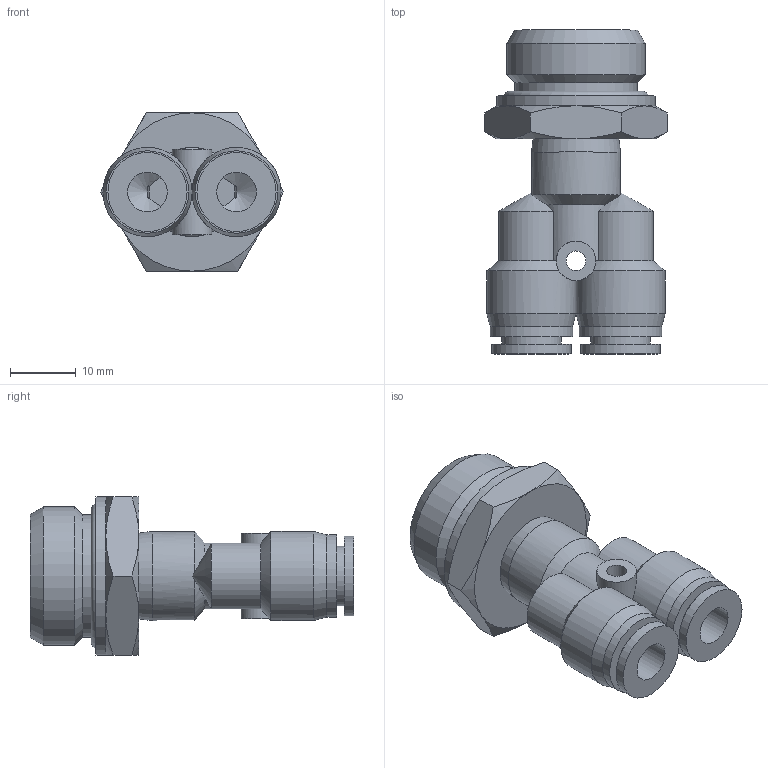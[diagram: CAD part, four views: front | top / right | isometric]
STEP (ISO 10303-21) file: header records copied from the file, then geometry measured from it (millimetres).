
FILE_DESCRIPTION(/* description */ (''),/* implementation_level */ '2;1');
FILE_NAME(/* name */ 'S:\_Tecnico\ArchivioUT\_Disegni3D ingombri\DISEGNI 3D per ingombri\RP\RP 74\RP741206.stp',/* time_stamp */ '2020-02-05T15:16:23+01:00',/* author */ ('UfficioTecnico'),/* organization */ (''),/* preprocessor_version */ 'ST-DEVELOPER v18',/* originating_system */ 'Autodesk Inventor 2020',/* authorisation */ '');
FILE_SCHEMA (('AUTOMOTIVE_DESIGN { 1 0 10303 214 3 1 1 }'));
Length unit declared in the file: millimetre
Products named in the file (1): RP741206
Bounding box: 27.71 x 49.11 x 24 mm (x, y, z)
Volume: 9219.2 mm3; surface area: 6932.5 mm2
Topology: 2 solids, 2 shells, 84 faces, 217 edges, 142 vertices
Faces by surface type: cylinder 28, plane 27, cone 27, torus 2
Full cylindrical faces by diameter (mm): 3 x1, 4.5 x1, 6 x4, 9 x2, 12 x2, 12.5 x2, 13.5 x3, 15.5 x1, 18.5 x2, 20.955 x1, 24 x1
Entity records: 2758 total; most frequent: CARTESIAN_POINT 687, DIRECTION 443, ORIENTED_EDGE 426, EDGE_CURVE 213, AXIS2_PLACEMENT_3D 197, VERTEX_POINT 142, CIRCLE 112, EDGE_LOOP 98
